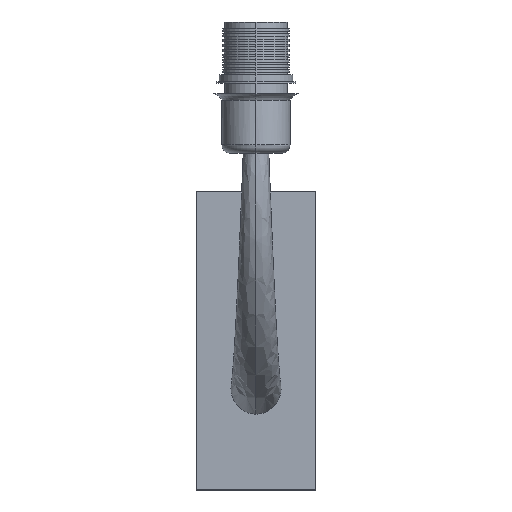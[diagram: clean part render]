
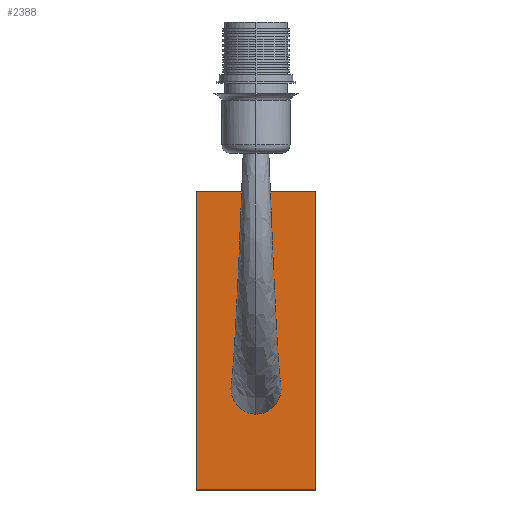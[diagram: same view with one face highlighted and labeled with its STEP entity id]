
A CAD part, top view. The second image highlights one B-rep face of the part: STEP entity #2388.
In plain terms, the highlighted planar face has unit normal (0, 0, 1).
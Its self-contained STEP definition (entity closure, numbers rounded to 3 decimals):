
#56=B_SPLINE_CURVE_WITH_KNOTS('',3,(#4897,#4898,#4899,#4900,#4901,#4902,
#4903,#4904,#4905,#4906,#4907,#4908,#4909,#4910,#4911,#4912,#4913,#4914,
#4915,#4916,#4917,#4918),.UNSPECIFIED.,.F.,.F.,(4,2,2,2,2,2,2,2,2,2,4),
(-47.499,-44.543,-41.571,-35.986,
-29.767,-23.682,-17.6,-11.537,
-5.81,-2.902,0.),.UNSPECIFIED.);
#57=B_SPLINE_CURVE_WITH_KNOTS('',3,(#4919,#4920,#4921,#4922,#4923,#4924,
#4925,#4926,#4927,#4928,#4929,#4930,#4931,#4932,#4933,#4934,#4935,#4936,
#4937,#4938,#4939,#4940),.UNSPECIFIED.,.F.,.F.,(4,2,2,2,2,2,2,2,2,2,4),
(-47.134,-44.254,-41.368,-35.685,
-29.669,-23.634,-17.595,-11.425,
-5.883,-2.933,0.),.UNSPECIFIED.);
#73=FACE_BOUND('',#482,.T.);
#158=PLANE('',#2676);
#315=FACE_OUTER_BOUND('',#481,.T.);
#481=EDGE_LOOP('',(#2154,#2155,#2156,#2157));
#482=EDGE_LOOP('',(#2158,#2159));
#778=LINE('',#4872,#959);
#782=LINE('',#4880,#963);
#785=LINE('',#4886,#966);
#788=LINE('',#4891,#969);
#959=VECTOR('',#3403,304.8);
#963=VECTOR('',#3409,304.8);
#966=VECTOR('',#3414,304.8);
#969=VECTOR('',#3419,304.8);
#1147=VERTEX_POINT('',#4870);
#1148=VERTEX_POINT('',#4871);
#1151=VERTEX_POINT('',#4879);
#1153=VERTEX_POINT('',#4885);
#1155=VERTEX_POINT('',#4895);
#1156=VERTEX_POINT('',#4896);
#1478=EDGE_CURVE('',#1147,#1148,#778,.T.);
#1482=EDGE_CURVE('',#1151,#1147,#782,.T.);
#1485=EDGE_CURVE('',#1153,#1151,#785,.T.);
#1488=EDGE_CURVE('',#1148,#1153,#788,.T.);
#1490=EDGE_CURVE('',#1155,#1156,#56,.T.);
#1491=EDGE_CURVE('',#1156,#1155,#57,.T.);
#2154=ORIENTED_EDGE('',*,*,#1488,.T.);
#2155=ORIENTED_EDGE('',*,*,#1485,.T.);
#2156=ORIENTED_EDGE('',*,*,#1482,.T.);
#2157=ORIENTED_EDGE('',*,*,#1478,.T.);
#2158=ORIENTED_EDGE('',*,*,#1490,.F.);
#2159=ORIENTED_EDGE('',*,*,#1491,.F.);
#2388=ADVANCED_FACE('',(#315,#73),#158,.T.);
#2676=AXIS2_PLACEMENT_3D('',#4894,#3423,#3424);
#3403=DIRECTION('',(0.,1.,0.));
#3409=DIRECTION('',(1.,0.,0.));
#3414=DIRECTION('',(0.,-1.,0.));
#3419=DIRECTION('',(-1.,0.,0.));
#3423=DIRECTION('center_axis',(0.,0.,1.));
#3424=DIRECTION('ref_axis',(-1.,0.,0.));
#4870=CARTESIAN_POINT('',(35.,-87.5,25.));
#4871=CARTESIAN_POINT('',(35.,87.5,25.));
#4872=CARTESIAN_POINT('',(35.,-87.5,25.));
#4879=CARTESIAN_POINT('',(-35.,-87.5,25.));
#4880=CARTESIAN_POINT('',(-35.,-87.5,25.));
#4885=CARTESIAN_POINT('',(-35.,87.5,25.));
#4886=CARTESIAN_POINT('',(-35.,87.5,25.));
#4891=CARTESIAN_POINT('',(35.,87.5,25.));
#4894=CARTESIAN_POINT('Origin',(-35.,87.5,25.));
#4895=CARTESIAN_POINT('',(0.,-12.186,25.));
#4896=CARTESIAN_POINT('',(0.,-43.045,25.));
#4897=CARTESIAN_POINT('Ctrl Pts',(0.,-12.186,
25.));
#4898=CARTESIAN_POINT('Ctrl Pts',(-0.978,-12.186,
25.));
#4899=CARTESIAN_POINT('Ctrl Pts',(-1.953,-12.295,25.));
#4900=CARTESIAN_POINT('Ctrl Pts',(-3.869,-12.714,25.));
#4901=CARTESIAN_POINT('Ctrl Pts',(-4.807,-13.025,25.));
#4902=CARTESIAN_POINT('Ctrl Pts',(-7.391,-14.181,25.));
#4903=CARTESIAN_POINT('Ctrl Pts',(-8.935,-15.253,25.));
#4904=CARTESIAN_POINT('Ctrl Pts',(-11.662,-18.051,25.));
#4905=CARTESIAN_POINT('Ctrl Pts',(-12.779,-19.834,25.));
#4906=CARTESIAN_POINT('Ctrl Pts',(-14.277,-23.613,25.));
#4907=CARTESIAN_POINT('Ctrl Pts',(-14.683,-25.63,25.));
#4908=CARTESIAN_POINT('Ctrl Pts',(-14.705,-29.668,25.));
#4909=CARTESIAN_POINT('Ctrl Pts',(-14.325,-31.693,25.));
#4910=CARTESIAN_POINT('Ctrl Pts',(-12.839,-35.447,25.));
#4911=CARTESIAN_POINT('Ctrl Pts',(-11.733,-37.181,25.));
#4912=CARTESIAN_POINT('Ctrl Pts',(-8.994,-40.001,25.));
#4913=CARTESIAN_POINT('Ctrl Pts',(-7.4,-41.112,25.));
#4914=CARTESIAN_POINT('Ctrl Pts',(-4.758,-42.256,25.));
#4915=CARTESIAN_POINT('Ctrl Pts',(-3.83,-42.55,25.));
#4916=CARTESIAN_POINT('Ctrl Pts',(-1.933,-42.945,25.));
#4917=CARTESIAN_POINT('Ctrl Pts',(-0.967,-43.045,
25.));
#4918=CARTESIAN_POINT('Ctrl Pts',(0.,-43.045,
25.));
#4919=CARTESIAN_POINT('Ctrl Pts',(0.,-43.045,
25.));
#4920=CARTESIAN_POINT('Ctrl Pts',(0.967,-43.045,25.));
#4921=CARTESIAN_POINT('Ctrl Pts',(1.933,-42.945,25.));
#4922=CARTESIAN_POINT('Ctrl Pts',(3.83,-42.55,25.));
#4923=CARTESIAN_POINT('Ctrl Pts',(4.758,-42.256,25.));
#4924=CARTESIAN_POINT('Ctrl Pts',(7.4,-41.112,25.));
#4925=CARTESIAN_POINT('Ctrl Pts',(8.994,-40.001,25.));
#4926=CARTESIAN_POINT('Ctrl Pts',(11.733,-37.181,25.));
#4927=CARTESIAN_POINT('Ctrl Pts',(12.839,-35.447,25.));
#4928=CARTESIAN_POINT('Ctrl Pts',(14.325,-31.693,25.));
#4929=CARTESIAN_POINT('Ctrl Pts',(14.705,-29.668,25.));
#4930=CARTESIAN_POINT('Ctrl Pts',(14.683,-25.63,25.));
#4931=CARTESIAN_POINT('Ctrl Pts',(14.277,-23.613,25.));
#4932=CARTESIAN_POINT('Ctrl Pts',(12.779,-19.834,25.));
#4933=CARTESIAN_POINT('Ctrl Pts',(11.662,-18.051,25.));
#4934=CARTESIAN_POINT('Ctrl Pts',(8.935,-15.253,25.));
#4935=CARTESIAN_POINT('Ctrl Pts',(7.391,-14.181,25.));
#4936=CARTESIAN_POINT('Ctrl Pts',(4.807,-13.025,25.));
#4937=CARTESIAN_POINT('Ctrl Pts',(3.869,-12.714,25.));
#4938=CARTESIAN_POINT('Ctrl Pts',(1.953,-12.295,25.));
#4939=CARTESIAN_POINT('Ctrl Pts',(0.978,-12.186,25.));
#4940=CARTESIAN_POINT('Ctrl Pts',(0.,-12.186,
25.));
